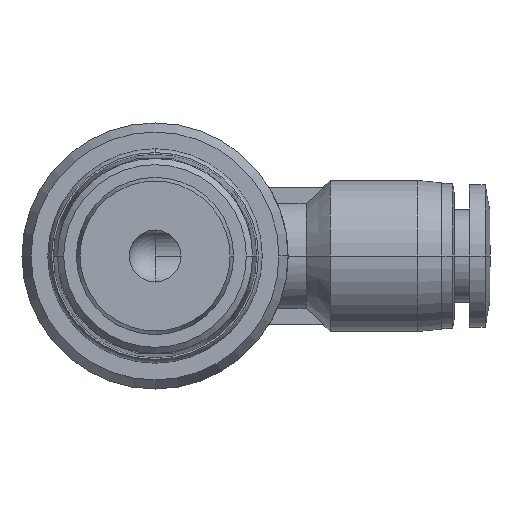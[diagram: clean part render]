
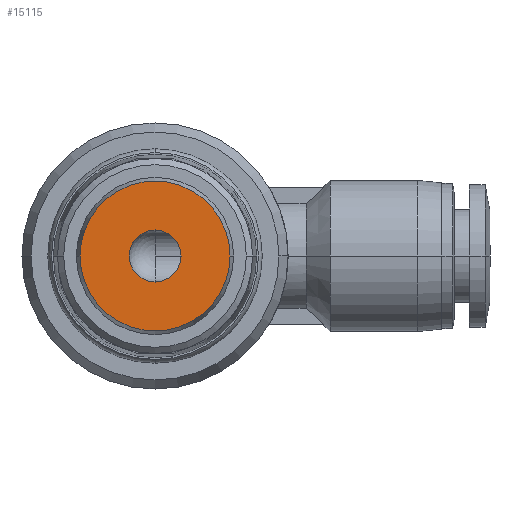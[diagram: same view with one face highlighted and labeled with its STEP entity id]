
A CAD part, front view. The second image highlights one B-rep face of the part: STEP entity #15115.
In plain terms, the highlighted planar face has unit normal (0, -1, 0).
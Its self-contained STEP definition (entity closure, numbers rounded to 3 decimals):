
#201 = DIRECTION ( 'NONE',  ( 0., 1., 0. ) ) ;
#273 = CARTESIAN_POINT ( 'NONE',  ( 6.2, 0., 0. ) ) ;
#1103 = FACE_OUTER_BOUND ( 'NONE', #15175, .T. ) ;
#2717 = CIRCLE ( 'NONE', #12033, 2.15 ) ;
#3301 = AXIS2_PLACEMENT_3D ( 'NONE', #10279, #3608, #6207 ) ;
#3306 = CARTESIAN_POINT ( 'NONE',  ( 0., 0., 0. ) ) ;
#3608 = DIRECTION ( 'NONE',  ( 0., -1., 0. ) ) ;
#3693 = AXIS2_PLACEMENT_3D ( 'NONE', #7787, #6460, #13940 ) ;
#3706 = VERTEX_POINT ( 'NONE', #16009 ) ;
#3789 = CARTESIAN_POINT ( 'NONE',  ( -6.2, 0., 0. ) ) ;
#4070 = EDGE_LOOP ( 'NONE', ( #14045, #14162 ) ) ;
#4509 = CIRCLE ( 'NONE', #8511, 2.15 ) ;
#5192 = FACE_BOUND ( 'NONE', #4070, .T. ) ;
#5891 = AXIS2_PLACEMENT_3D ( 'NONE', #9716, #8392, #12213 ) ;
#6181 = EDGE_CURVE ( 'NONE', #3706, #14574, #2717, .T. ) ;
#6207 = DIRECTION ( 'NONE',  ( 0., 0., -1. ) ) ;
#6460 = DIRECTION ( 'NONE',  ( 0., 1., 0. ) ) ;
#6885 = ORIENTED_EDGE ( 'NONE', *, *, #11741, .F. ) ;
#7787 = CARTESIAN_POINT ( 'NONE',  ( 0., 0., 0. ) ) ;
#8322 = DIRECTION ( 'NONE',  ( -1., 0., 0. ) ) ;
#8348 = ORIENTED_EDGE ( 'NONE', *, *, #16260, .F. ) ;
#8392 = DIRECTION ( 'NONE',  ( 0., 1., 0. ) ) ;
#8511 = AXIS2_PLACEMENT_3D ( 'NONE', #10629, #201, #14205 ) ;
#9716 = CARTESIAN_POINT ( 'NONE',  ( 0., 0., 0. ) ) ;
#10279 = CARTESIAN_POINT ( 'NONE',  ( -3.1, 0., 0. ) ) ;
#10461 = EDGE_CURVE ( 'NONE', #14574, #3706, #4509, .T. ) ;
#10629 = CARTESIAN_POINT ( 'NONE',  ( 0., 0., 0. ) ) ;
#10657 = CIRCLE ( 'NONE', #5891, 6.2 ) ;
#11741 = EDGE_CURVE ( 'NONE', #14831, #16223, #10657, .T. ) ;
#12033 = AXIS2_PLACEMENT_3D ( 'NONE', #3306, #14794, #8322 ) ;
#12213 = DIRECTION ( 'NONE',  ( -1., 0., 0. ) ) ;
#13940 = DIRECTION ( 'NONE',  ( -1., 0., 0. ) ) ;
#14045 = ORIENTED_EDGE ( 'NONE', *, *, #10461, .T. ) ;
#14162 = ORIENTED_EDGE ( 'NONE', *, *, #6181, .T. ) ;
#14205 = DIRECTION ( 'NONE',  ( -1., 0., 0. ) ) ;
#14574 = VERTEX_POINT ( 'NONE', #16033 ) ;
#14794 = DIRECTION ( 'NONE',  ( 0., 1., 0. ) ) ;
#14831 = VERTEX_POINT ( 'NONE', #273 ) ;
#15115 = ADVANCED_FACE ( 'NONE', ( #1103, #5192 ), #15272, .T. ) ;
#15175 = EDGE_LOOP ( 'NONE', ( #8348, #6885 ) ) ;
#15272 = PLANE ( 'NONE',  #3301 ) ;
#15642 = CIRCLE ( 'NONE', #3693, 6.2 ) ;
#16009 = CARTESIAN_POINT ( 'NONE',  ( 2.15, 0., 0. ) ) ;
#16033 = CARTESIAN_POINT ( 'NONE',  ( -2.15, 0., 0. ) ) ;
#16223 = VERTEX_POINT ( 'NONE', #3789 ) ;
#16260 = EDGE_CURVE ( 'NONE', #16223, #14831, #15642, .T. ) ;
